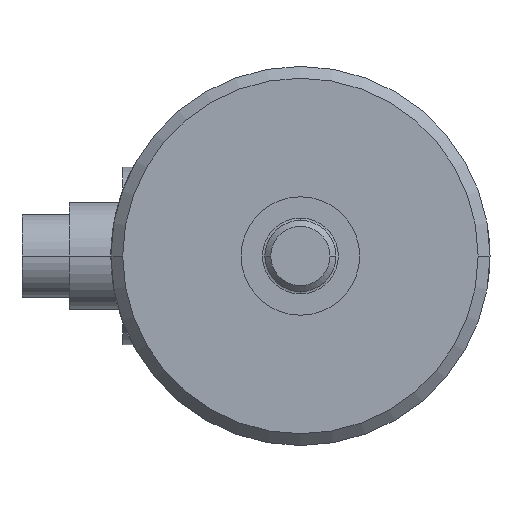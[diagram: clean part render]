
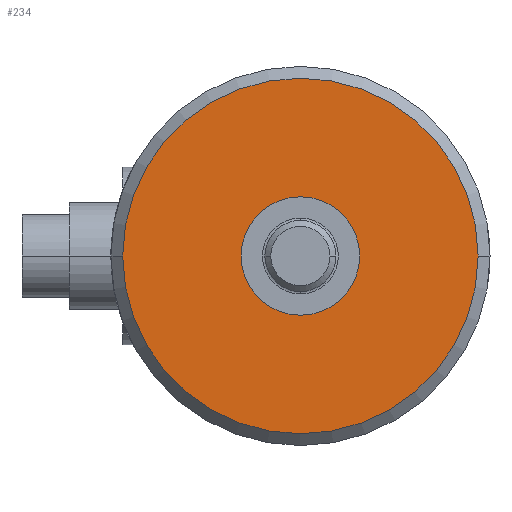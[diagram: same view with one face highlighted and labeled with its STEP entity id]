
A CAD part, left-side view. The second image highlights one B-rep face of the part: STEP entity #234.
In plain terms, the highlighted planar face has unit normal (-1, 0, 0).
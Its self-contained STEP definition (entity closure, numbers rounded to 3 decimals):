
#234=ADVANCED_FACE('',(#482,#483),#484,.T.);
#482=FACE_OUTER_BOUND('',#1005,.T.);
#483=FACE_BOUND('',#1006,.T.);
#484=PLANE('',#1007);
#1005=EDGE_LOOP('',(#1604,#1605));
#1006=EDGE_LOOP('',(#1606,#1607));
#1007=AXIS2_PLACEMENT_3D('',#1608,#1609,#1610);
#1604=ORIENTED_EDGE('',*,*,#1807,.F.);
#1605=ORIENTED_EDGE('',*,*,#1973,.F.);
#1606=ORIENTED_EDGE('',*,*,#1813,.T.);
#1607=ORIENTED_EDGE('',*,*,#1971,.T.);
#1608=CARTESIAN_POINT('',(-24.0,10.,0.0));
#1609=DIRECTION('',(-1.0,0.0,0.0));
#1610=DIRECTION('',(0.0,0.0,1.0));
#1807=EDGE_CURVE('',#2122,#2124,#2125,.T.);
#1813=EDGE_CURVE('',#2129,#2133,#2135,.T.);
#1971=EDGE_CURVE('',#2133,#2129,#2358,.T.);
#1973=EDGE_CURVE('',#2124,#2122,#2360,.T.);
#2122=VERTEX_POINT('',#2687);
#2124=VERTEX_POINT('',#2690);
#2125=CIRCLE('',#2691,15.0);
#2129=VERTEX_POINT('',#2696);
#2133=VERTEX_POINT('',#2701);
#2135=CIRCLE('',#2704,5.);
#2358=CIRCLE('',#3078,5.);
#2360=CIRCLE('',#3080,15.0);
#2687=CARTESIAN_POINT('',(-24.0,15.0,0.0));
#2690=CARTESIAN_POINT('',(-24.0,-15.0,0.));
#2691=AXIS2_PLACEMENT_3D('',#3215,#3216,#3217);
#2696=CARTESIAN_POINT('',(-24.0,5.,0.0));
#2701=CARTESIAN_POINT('',(-24.0,-5.,0.));
#2704=AXIS2_PLACEMENT_3D('',#3224,#3225,#3226);
#3078=AXIS2_PLACEMENT_3D('',#3420,#3421,#3422);
#3080=AXIS2_PLACEMENT_3D('',#3423,#3424,#3425);
#3215=CARTESIAN_POINT('',(-24.0,0.0,0.0));
#3216=DIRECTION('',(1.0,0.0,0.0));
#3217=DIRECTION('',(0.0,1.0,0.0));
#3224=CARTESIAN_POINT('',(-24.0,0.0,0.0));
#3225=DIRECTION('',(1.0,0.0,0.0));
#3226=DIRECTION('',(0.0,1.0,0.0));
#3420=CARTESIAN_POINT('',(-24.0,0.0,0.0));
#3421=DIRECTION('',(1.0,0.0,0.0));
#3422=DIRECTION('',(0.0,1.0,0.0));
#3423=CARTESIAN_POINT('',(-24.0,0.0,0.0));
#3424=DIRECTION('',(1.0,0.0,0.0));
#3425=DIRECTION('',(0.0,1.0,0.0));
